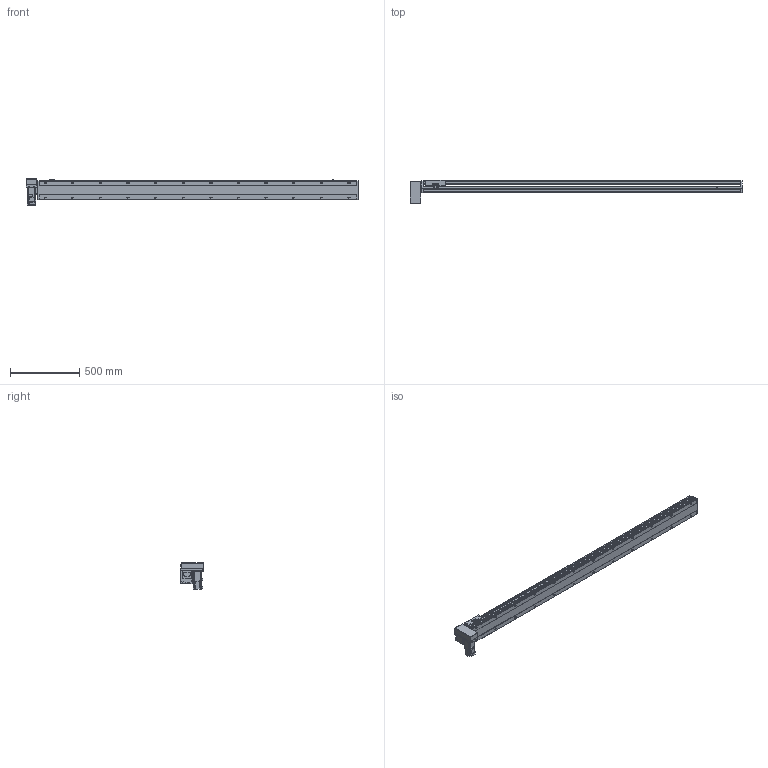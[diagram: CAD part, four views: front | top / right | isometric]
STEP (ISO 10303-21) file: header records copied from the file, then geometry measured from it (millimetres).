
FILE_DESCRIPTION(/* description */ ('STEP AP214'),/* implementation_level */ '2;1');
FILE_NAME(/* name */ 'PBS140S-P40-S2050-RD-T40-C1-N(0)',/* time_stamp */ '2022-06-09T02:47:20+02:00',/* author */ ('License CC BY-ND 4.0'),/* organization */ ('CADENAS'),/* preprocessor_version */ 'ST-DEVELOPER v18.102',/* originating_system */ 'PARTsolutions',/* authorisation */ ' ');
FILE_SCHEMA (('AUTOMOTIVE_DESIGN {1 0 10303 214 3 1 1}'));
Length unit declared in the file: millimetre
Products named in the file (7): PBS140S-P40-S2050-RD-T40-C1-N(0); PBS140S_sensor; PBS140S_plant; PBS140S_sliser; T40-p1; PBS140ST-RD_motors; PBS140S-S2050()_body
Assembly tree (8 placements, depth 2):
  PBS140S-P40-S2050-RD-T40-C1-N(0)
    PBS140S_sensor  x3
    PBS140S_plant
    PBS140S_sliser
    T40-p1
    PBS140ST-RD_motors
    PBS140S-S2050()_body
Bounding box: 2404 x 172.5 x 189.7 mm (x, y, z)
Volume: 11822265.8 mm3; surface area: 2000944.8 mm2
Topology: 8 solids, 8 shells, 1163 faces, 3071 edges, 2009 vertices
Faces by surface type: plane 726, cylinder 377, cone 50, sphere 8, torus 2
Full cylindrical faces by diameter (mm): 3.242 x4, 4 x2, 4.134 x4, 4.4 x8, 4.5 x2, 4.8 x4, 4.917 x32, 5.5 x7, 6 x2, 7 x26, 7.5 x8, 8 x12, 8.5 x4, 10.5 x24, 14 x1, 30 x2, 50 x2
Entity records: 33328 total; most frequent: CARTESIAN_POINT 6264, DIRECTION 5628, ORIENTED_EDGE 5302, EDGE_CURVE 2651, AXIS2_PLACEMENT_3D 1979, VERTEX_POINT 1849, LINE 1670, VECTOR 1670
